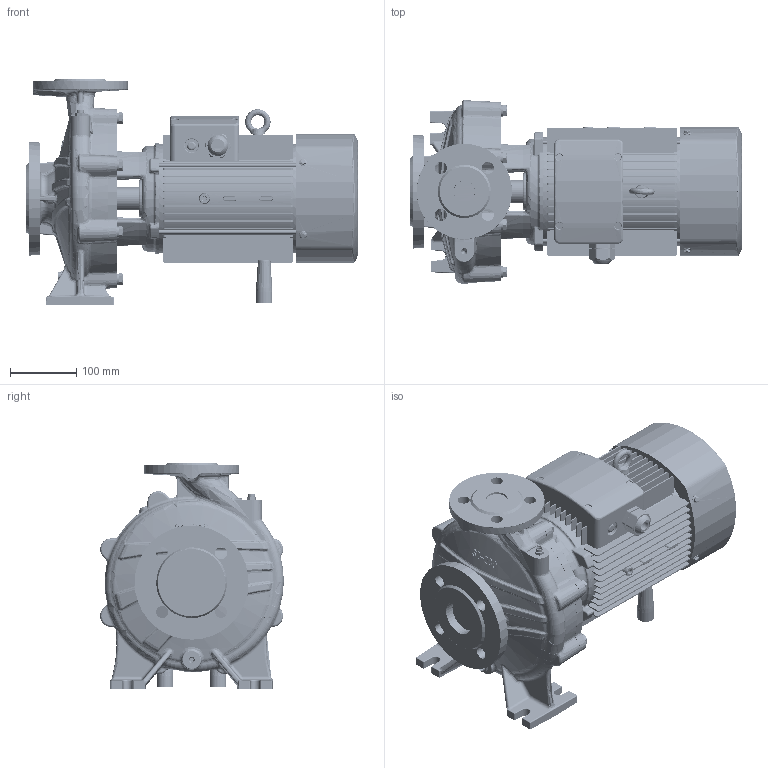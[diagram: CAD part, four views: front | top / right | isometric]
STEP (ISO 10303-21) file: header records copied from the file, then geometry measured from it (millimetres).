
FILE_DESCRIPTION (( 'STEP AP203' ), '1' );
FILE_NAME ('TST32-200-3 4 安装尺寸图.STEP', '2026-04-27T09:04:04', ( '微软用户' ), ( '微软中国' ), 'SwSTEP 2.0', 'SolidWorks 2020', '' );
FILE_SCHEMA (( 'CONFIG_CONTROL_DESIGN' ));
Products named in the file (1): TST32-200-3 4 假蚾喜渡芞
Bounding box: 499.72 x 276.45 x 340.01 mm (x, y, z)
Volume: 14007569.7 mm3; surface area: 1050786.1 mm2
Topology: 1 solids, 6 shells, 4123 faces, 10080 edges, 6151 vertices
Faces by surface type: plane 1169, cylinder 1148, bspline 1023, cone 398, torus 307, sphere 78
Entity records: 171829 total; most frequent: CARTESIAN_POINT 82195, ORIENTED_EDGE 20016, DIRECTION 17258, EDGE_CURVE 10008, AXIS2_PLACEMENT_3D 7143, VERTEX_POINT 6143, EDGE_LOOP 4459, FACE_OUTER_BOUND 4123
